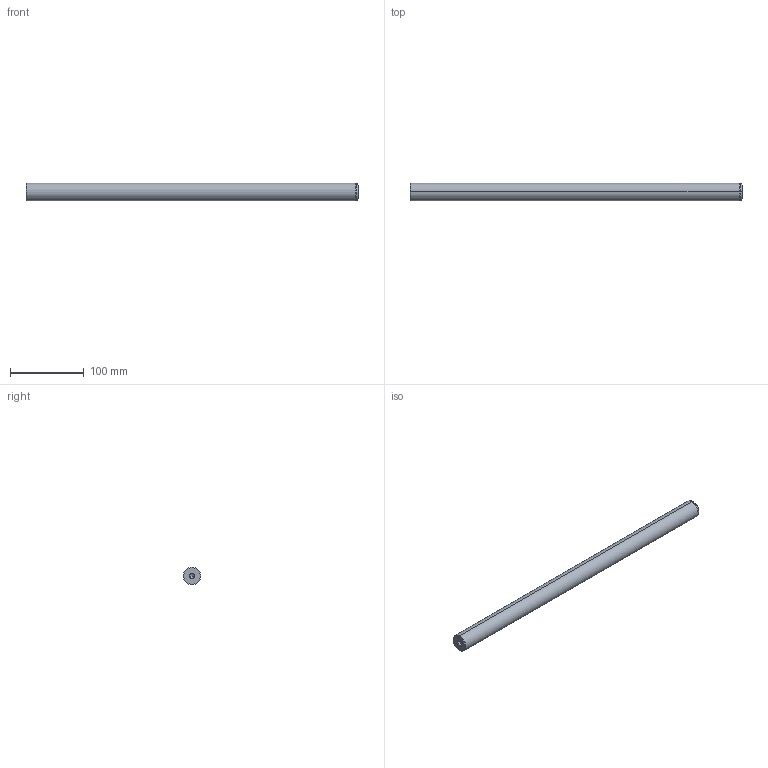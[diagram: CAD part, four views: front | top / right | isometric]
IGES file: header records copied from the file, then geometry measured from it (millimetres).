
Start section: START RECORD GO HERE.
Global section: file name: 720-24x450.igs; native system: DASSAULT SYSTEMES CATIA V5 R20 - www.3ds.com; preprocessor: CATIA Version 5 Release 20 ; author: Utente; organization: NB04-ASUS; date: 20210101.134621; units: millimetre
Bounding box: 450 x 24 x 24 mm (x, y, z)
Surface area: 35669.2 mm2 (no closed solid volume)
Topology: 0 solids, 0 shells, 22 faces, 120 edges, 116 vertices
Faces by surface type: revolution 20, plane 2
